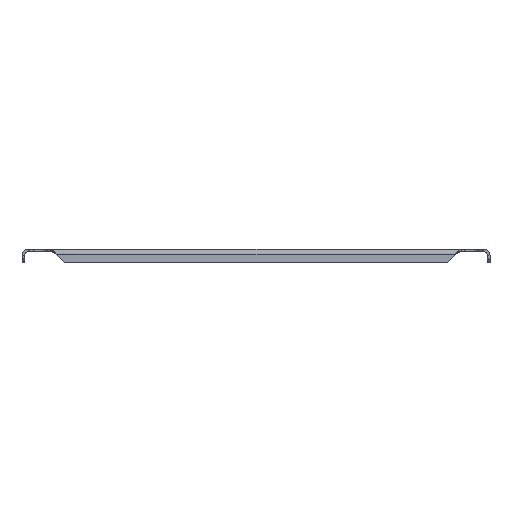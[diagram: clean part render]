
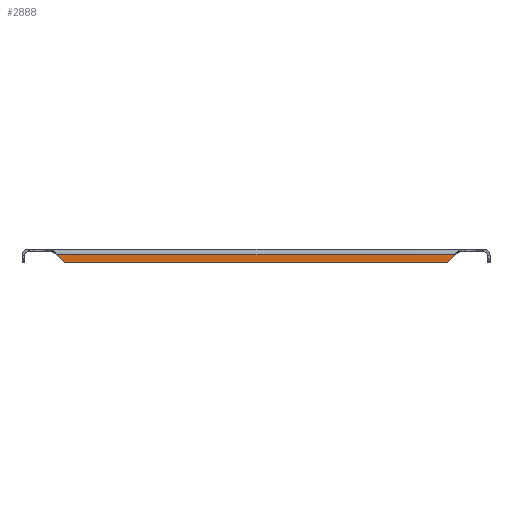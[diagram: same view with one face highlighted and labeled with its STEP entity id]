
A CAD part, front view. The second image highlights one B-rep face of the part: STEP entity #2888.
In plain terms, the highlighted planar face has unit normal (0, -1, 0).
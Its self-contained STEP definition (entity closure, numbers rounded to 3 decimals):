
#77 = EDGE_CURVE ( 'NONE', #1208, #2719, #2929, .T. ) ;
#90 = ORIENTED_EDGE ( 'NONE', *, *, #120, .F. ) ;
#120 = EDGE_CURVE ( 'NONE', #2825, #2746, #1020, .T. ) ;
#126 = PLANE ( 'NONE',  #2571 ) ;
#160 = VECTOR ( 'NONE', #295, 1000. ) ;
#175 = EDGE_CURVE ( 'NONE', #2289, #2825, #2154, .T. ) ;
#285 = LINE ( 'NONE', #1217, #1932 ) ;
#295 = DIRECTION ( 'NONE',  ( 1., 0., 0. ) ) ;
#347 = DIRECTION ( 'NONE',  ( 0., -1., 0. ) ) ;
#556 = CARTESIAN_POINT ( 'NONE',  ( 216.75, -287.489, 67.15 ) ) ;
#559 = LINE ( 'NONE', #823, #2440 ) ;
#576 = CARTESIAN_POINT ( 'NONE',  ( 0., -287.489, 283.9 ) ) ;
#823 = CARTESIAN_POINT ( 'NONE',  ( -216.75, -287.489, 67.15 ) ) ;
#861 = EDGE_CURVE ( 'NONE', #1208, #2289, #559, .T. ) ;
#909 = ORIENTED_EDGE ( 'NONE', *, *, #1563, .T. ) ;
#996 = CARTESIAN_POINT ( 'NONE',  ( 139.746, -287.489, -9.854 ) ) ;
#1020 = LINE ( 'NONE', #556, #1997 ) ;
#1027 = FACE_OUTER_BOUND ( 'NONE', #2507, .T. ) ;
#1208 = VERTEX_POINT ( 'NONE', #2283 ) ;
#1217 = CARTESIAN_POINT ( 'NONE',  ( -139.6, -287.489, -10. ) ) ;
#1283 = CARTESIAN_POINT ( 'NONE',  ( -139.393, -287.489, -10. ) ) ;
#1316 = DIRECTION ( 'NONE',  ( 0., 0., -1. ) ) ;
#1333 = ORIENTED_EDGE ( 'NONE', *, *, #175, .F. ) ;
#1348 = CARTESIAN_POINT ( 'NONE',  ( 139.393, -287.489, -9.5 ) ) ;
#1563 = EDGE_CURVE ( 'NONE', #2719, #1996, #285, .T. ) ;
#1694 = DIRECTION ( 'NONE',  ( 0., -1., 0. ) ) ;
#1740 = DIRECTION ( 'NONE',  ( -0.707, 0., -0.707 ) ) ;
#1746 = DIRECTION ( 'NONE',  ( -0.707, 0., 0.707 ) ) ;
#1797 = AXIS2_PLACEMENT_3D ( 'NONE', #1348, #2489, #1316 ) ;
#1932 = VECTOR ( 'NONE', #2144, 1000. ) ;
#1989 = DIRECTION ( 'NONE',  ( 1., 0., 0. ) ) ;
#1996 = VERTEX_POINT ( 'NONE', #2889 ) ;
#1997 = VECTOR ( 'NONE', #1740, 1000. ) ;
#2022 = EDGE_CURVE ( 'NONE', #1996, #2746, #2521, .T. ) ;
#2144 = DIRECTION ( 'NONE',  ( 1., 0., 0. ) ) ;
#2154 = LINE ( 'NONE', #2382, #160 ) ;
#2283 = CARTESIAN_POINT ( 'NONE',  ( -139.746, -287.489, -9.854 ) ) ;
#2289 = VERTEX_POINT ( 'NONE', #2931 ) ;
#2309 = ORIENTED_EDGE ( 'NONE', *, *, #861, .F. ) ;
#2382 = CARTESIAN_POINT ( 'NONE',  ( 0., -287.489, -4. ) ) ;
#2385 = CARTESIAN_POINT ( 'NONE',  ( 145.6, -287.489, -4. ) ) ;
#2435 = AXIS2_PLACEMENT_3D ( 'NONE', #2607, #1694, #2442 ) ;
#2440 = VECTOR ( 'NONE', #1746, 1000. ) ;
#2442 = DIRECTION ( 'NONE',  ( 0., 0., -1. ) ) ;
#2489 = DIRECTION ( 'NONE',  ( 0., -1., 0. ) ) ;
#2491 = ORIENTED_EDGE ( 'NONE', *, *, #77, .T. ) ;
#2507 = EDGE_LOOP ( 'NONE', ( #909, #2775, #90, #1333, #2309, #2491 ) ) ;
#2521 = CIRCLE ( 'NONE', #1797, 0.5 ) ;
#2571 = AXIS2_PLACEMENT_3D ( 'NONE', #576, #347, #1989 ) ;
#2607 = CARTESIAN_POINT ( 'NONE',  ( -139.393, -287.489, -9.5 ) ) ;
#2719 = VERTEX_POINT ( 'NONE', #1283 ) ;
#2746 = VERTEX_POINT ( 'NONE', #996 ) ;
#2775 = ORIENTED_EDGE ( 'NONE', *, *, #2022, .T. ) ;
#2825 = VERTEX_POINT ( 'NONE', #2385 ) ;
#2888 = ADVANCED_FACE ( 'NONE', ( #1027 ), #126, .T. ) ;
#2889 = CARTESIAN_POINT ( 'NONE',  ( 139.393, -287.489, -10. ) ) ;
#2929 = CIRCLE ( 'NONE', #2435, 0.5 ) ;
#2931 = CARTESIAN_POINT ( 'NONE',  ( -145.6, -287.489, -4. ) ) ;
